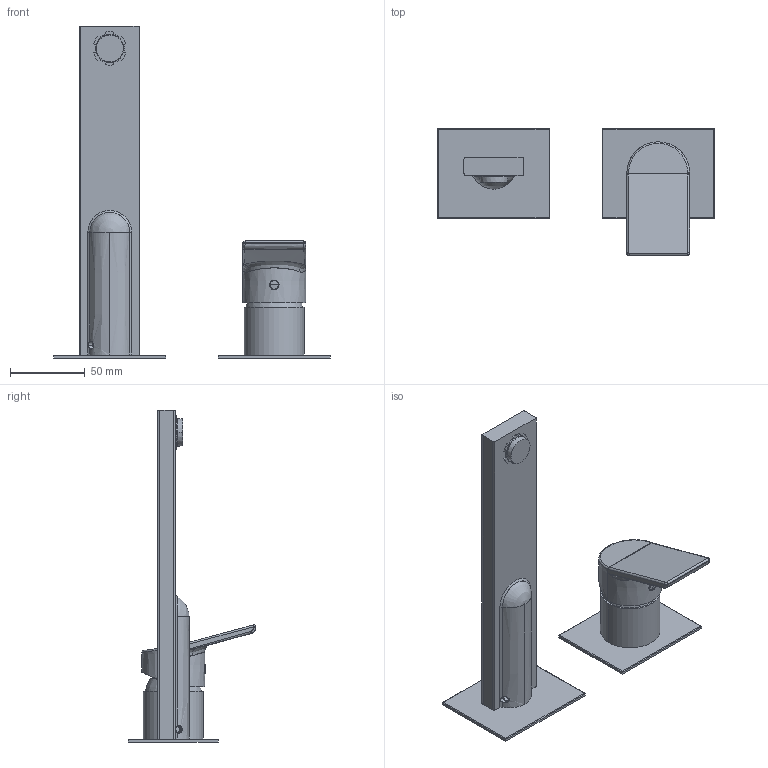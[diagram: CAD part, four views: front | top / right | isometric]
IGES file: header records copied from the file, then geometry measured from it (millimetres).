
Start section:  PTC IGES file: 74547A.igs
Global section: file name: 74547A.igs; native system: Creo Parametric by PTC Inc.; preprocessor: 2022014; author: carloff; organization: Unknown; date: 20250708.165658; units: millimetre
Bounding box: 185 x 85 x 222 mm (x, y, z)
Surface area: 75120.5 mm2 (no closed solid volume)
Topology: 0 solids, 0 shells, 298 faces, 1471 edges, 1464 vertices
Faces by surface type: revolution 157, bspline 141
